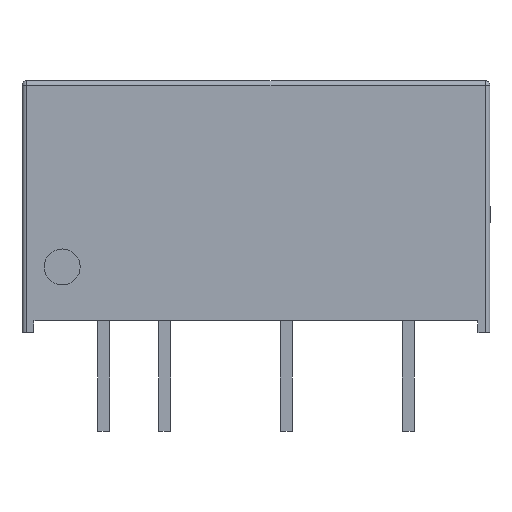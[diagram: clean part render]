
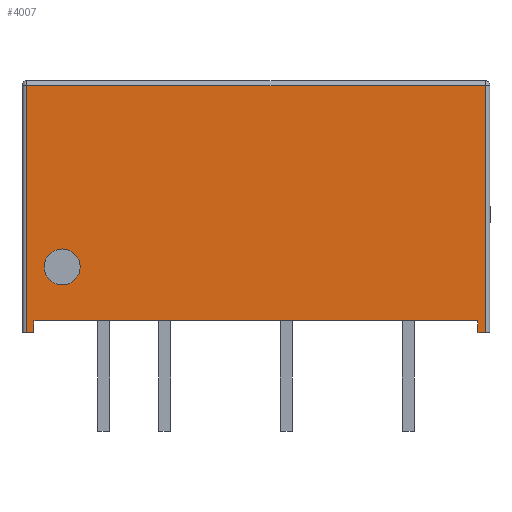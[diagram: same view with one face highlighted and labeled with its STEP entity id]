
A CAD part, front view. The second image highlights one B-rep face of the part: STEP entity #4007.
In plain terms, the highlighted planar face has unit normal (0, -1, 0).
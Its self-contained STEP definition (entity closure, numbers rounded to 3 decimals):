
#69 = EDGE_CURVE ( 'NONE', #4311, #6405, #10101, .T. ) ;
#219 = EDGE_CURVE ( 'NONE', #4667, #6526, #4917, .T. ) ;
#367 = EDGE_CURVE ( 'NONE', #10042, #9912, #8224, .T. ) ;
#715 = AXIS2_PLACEMENT_3D ( 'NONE', #12586, #3696, #7679 ) ;
#722 = CIRCLE ( 'NONE', #715, 0.749 ) ;
#727 = EDGE_CURVE ( 'NONE', #5408, #8000, #10255, .T. ) ;
#832 = CARTESIAN_POINT ( 'NONE',  ( 9.55, -3.5, -0.2 ) ) ;
#847 = VECTOR ( 'NONE', #3258, 1000. ) ;
#933 = CARTESIAN_POINT ( 'NONE',  ( 9.55, -3.5, -10.5 ) ) ;
#941 = LINE ( 'NONE', #4961, #12434 ) ;
#1045 = VERTEX_POINT ( 'NONE', #933 ) ;
#1186 = CARTESIAN_POINT ( 'NONE',  ( -9.55, -3.5, -10.5 ) ) ;
#1264 = ORIENTED_EDGE ( 'NONE', *, *, #6899, .F. ) ;
#1331 = DIRECTION ( 'NONE',  ( -1., 0., 0. ) ) ;
#1557 = DIRECTION ( 'NONE',  ( 0., -1., 0. ) ) ;
#1687 = CARTESIAN_POINT ( 'NONE',  ( 9.55, -3.5, -10.5 ) ) ;
#2263 = ORIENTED_EDGE ( 'NONE', *, *, #219, .F. ) ;
#2339 = DIRECTION ( 'NONE',  ( 0., 0., -1. ) ) ;
#2630 = EDGE_LOOP ( 'NONE', ( #6447, #5410 ) ) ;
#2696 = CARTESIAN_POINT ( 'NONE',  ( -9.25, -3.5, -10. ) ) ;
#2745 = LINE ( 'NONE', #6740, #11705 ) ;
#3182 = VECTOR ( 'NONE', #5206, 1000. ) ;
#3258 = DIRECTION ( 'NONE',  ( 0., 0., 1. ) ) ;
#3696 = DIRECTION ( 'NONE',  ( 0., -1., 0. ) ) ;
#4007 = ADVANCED_FACE ( 'NONE', ( #4441, #8430 ), #12347, .T. ) ;
#4311 = VERTEX_POINT ( 'NONE', #7905 ) ;
#4363 = LINE ( 'NONE', #8349, #9526 ) ;
#4383 = EDGE_LOOP ( 'NONE', ( #8393, #7339, #11263, #5275, #9271, #2263, #1264, #7153 ) ) ;
#4441 = FACE_BOUND ( 'NONE', #2630, .T. ) ;
#4667 = VERTEX_POINT ( 'NONE', #2696 ) ;
#4836 = VECTOR ( 'NONE', #12800, 1000. ) ;
#4917 = LINE ( 'NONE', #8872, #4836 ) ;
#4961 = CARTESIAN_POINT ( 'NONE',  ( -9.75, -3.5, -0.2 ) ) ;
#5206 = DIRECTION ( 'NONE',  ( 0., 0., -1. ) ) ;
#5275 = ORIENTED_EDGE ( 'NONE', *, *, #69, .T. ) ;
#5408 = VERTEX_POINT ( 'NONE', #10769 ) ;
#5410 = ORIENTED_EDGE ( 'NONE', *, *, #727, .F. ) ;
#5582 = DIRECTION ( 'NONE',  ( 0., 0., -1. ) ) ;
#5630 = CARTESIAN_POINT ( 'NONE',  ( -9.25, -3.5, -10.5 ) ) ;
#5696 = DIRECTION ( 'NONE',  ( 0., 0., 1. ) ) ;
#6062 = CARTESIAN_POINT ( 'NONE',  ( 9.25, -3.5, -10. ) ) ;
#6127 = VERTEX_POINT ( 'NONE', #832 ) ;
#6309 = LINE ( 'NONE', #10242, #11179 ) ;
#6405 = VERTEX_POINT ( 'NONE', #9880 ) ;
#6447 = ORIENTED_EDGE ( 'NONE', *, *, #11468, .F. ) ;
#6526 = VERTEX_POINT ( 'NONE', #5630 ) ;
#6544 = CARTESIAN_POINT ( 'NONE',  ( 9.25, -3.5, -10.5 ) ) ;
#6740 = CARTESIAN_POINT ( 'NONE',  ( -9.75, -3.5, -10.5 ) ) ;
#6899 = EDGE_CURVE ( 'NONE', #9912, #4667, #6309, .T. ) ;
#7153 = ORIENTED_EDGE ( 'NONE', *, *, #367, .F. ) ;
#7296 = CARTESIAN_POINT ( 'NONE',  ( -8.076, -3.5, -7.756 ) ) ;
#7339 = ORIENTED_EDGE ( 'NONE', *, *, #12111, .T. ) ;
#7597 = CARTESIAN_POINT ( 'NONE',  ( -8.076, -3.5, -8.504 ) ) ;
#7631 = LINE ( 'NONE', #1687, #8326 ) ;
#7679 = DIRECTION ( 'NONE',  ( 0., 0., -1. ) ) ;
#7905 = CARTESIAN_POINT ( 'NONE',  ( -9.55, -3.5, -0.2 ) ) ;
#8000 = VERTEX_POINT ( 'NONE', #7597 ) ;
#8224 = LINE ( 'NONE', #12148, #847 ) ;
#8326 = VECTOR ( 'NONE', #5696, 1000. ) ;
#8349 = CARTESIAN_POINT ( 'NONE',  ( -9.75, -3.5, -10.5 ) ) ;
#8393 = ORIENTED_EDGE ( 'NONE', *, *, #11947, .T. ) ;
#8430 = FACE_OUTER_BOUND ( 'NONE', #4383, .T. ) ;
#8598 = AXIS2_PLACEMENT_3D ( 'NONE', #7296, #11220, #2339 ) ;
#8749 = AXIS2_PLACEMENT_3D ( 'NONE', #10484, #1557, #5582 ) ;
#8872 = CARTESIAN_POINT ( 'NONE',  ( -9.25, -3.5, -10.5 ) ) ;
#8911 = DIRECTION ( 'NONE',  ( -1., 0., 0. ) ) ;
#9271 = ORIENTED_EDGE ( 'NONE', *, *, #9425, .T. ) ;
#9425 = EDGE_CURVE ( 'NONE', #6405, #6526, #2745, .T. ) ;
#9526 = VECTOR ( 'NONE', #12266, 1000. ) ;
#9880 = CARTESIAN_POINT ( 'NONE',  ( -9.55, -3.5, -10.5 ) ) ;
#9912 = VERTEX_POINT ( 'NONE', #6062 ) ;
#10042 = VERTEX_POINT ( 'NONE', #6544 ) ;
#10101 = LINE ( 'NONE', #1186, #3182 ) ;
#10242 = CARTESIAN_POINT ( 'NONE',  ( -9.25, -3.5, -10. ) ) ;
#10255 = CIRCLE ( 'NONE', #8598, 0.749 ) ;
#10484 = CARTESIAN_POINT ( 'NONE',  ( -9.75, -3.5, -10.5 ) ) ;
#10686 = DIRECTION ( 'NONE',  ( 1., 0., 0. ) ) ;
#10769 = CARTESIAN_POINT ( 'NONE',  ( -8.076, -3.5, -7.007 ) ) ;
#11179 = VECTOR ( 'NONE', #1331, 1000. ) ;
#11220 = DIRECTION ( 'NONE',  ( 0., -1., 0. ) ) ;
#11263 = ORIENTED_EDGE ( 'NONE', *, *, #12187, .T. ) ;
#11468 = EDGE_CURVE ( 'NONE', #8000, #5408, #722, .T. ) ;
#11705 = VECTOR ( 'NONE', #10686, 1000. ) ;
#11947 = EDGE_CURVE ( 'NONE', #10042, #1045, #4363, .T. ) ;
#12111 = EDGE_CURVE ( 'NONE', #1045, #6127, #7631, .T. ) ;
#12148 = CARTESIAN_POINT ( 'NONE',  ( 9.25, -3.5, -10.5 ) ) ;
#12187 = EDGE_CURVE ( 'NONE', #6127, #4311, #941, .T. ) ;
#12266 = DIRECTION ( 'NONE',  ( 1., 0., 0. ) ) ;
#12347 = PLANE ( 'NONE',  #8749 ) ;
#12434 = VECTOR ( 'NONE', #8911, 1000. ) ;
#12586 = CARTESIAN_POINT ( 'NONE',  ( -8.076, -3.5, -7.756 ) ) ;
#12800 = DIRECTION ( 'NONE',  ( 0., 0., -1. ) ) ;
